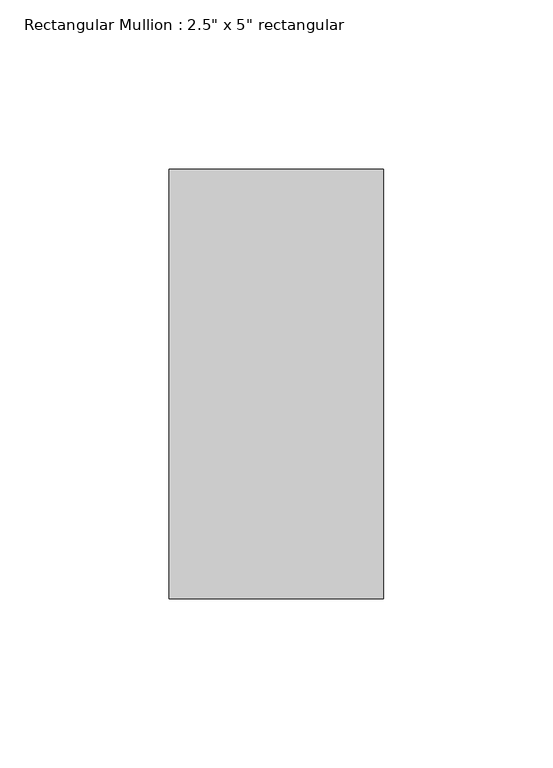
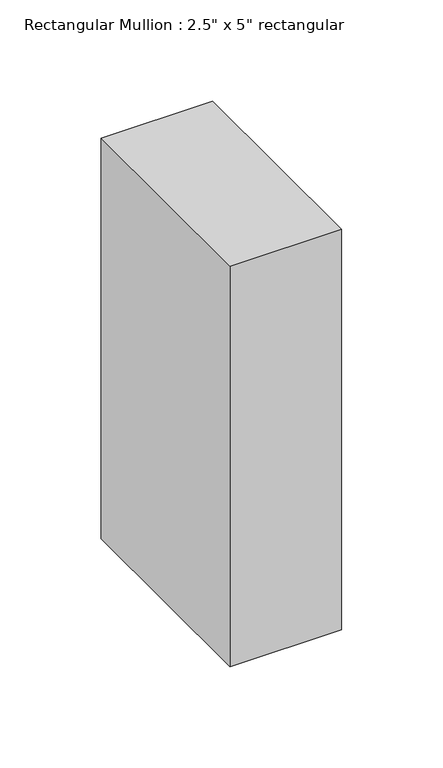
"""IFC4 building model written with IfcOpenShell, lengths in millimetres: member geometry."""

from ifc_helpers import new_model, si_unit, frame, origin, place, context, project, spatial, polyline, outline, extrude, source, transform, mapped, element, save


def member_16e23a8f(model_context):
    return source(origin(), model_context, "Body", "SweptSolid", [
        extrude(outline(polyline([(31.75, 63.5), (31.75, -63.5), (-31.75, -63.5), (-31.75, 63.5), (31.75, 63.5)])), frame((0.0, 0.0, -240.9095235), z_axis=(0.0, 0.0, 1.0), x_axis=(1.0, 0.0, 0.0)), (0.0, 0.0, 1.0), 240.9095235),
    ])


if __name__ == "__main__":
    model = new_model("IFC4")
    model_context = context("Model", 3, world=origin())
    ifc_project = project(units=[si_unit("LENGTHUNIT", "METRE", prefix="MILLI")], contexts=[model_context])
    site = spatial("IfcSite", under=ifc_project)
    building = spatial("IfcBuilding", under=site)
    placement = place(None, origin())
    member_shape = member_16e23a8f(model_context)
    element("IfcMember", 1, ObjectType="Rectangular Mullion : 2.5\" x 5\" rectangular", at=placement, inside=building, context=model_context, shape_type="MappedRepresentation", body=[
        mapped(member_shape, transform((0.0, 0.0, 0.0), x_axis=(1.0, 0.0, 0.0), y_axis=(0.0, 1.0, 0.0), z_axis=(0.0, 0.0, 1.0))),
    ])
    save(model, "model.ifc")
